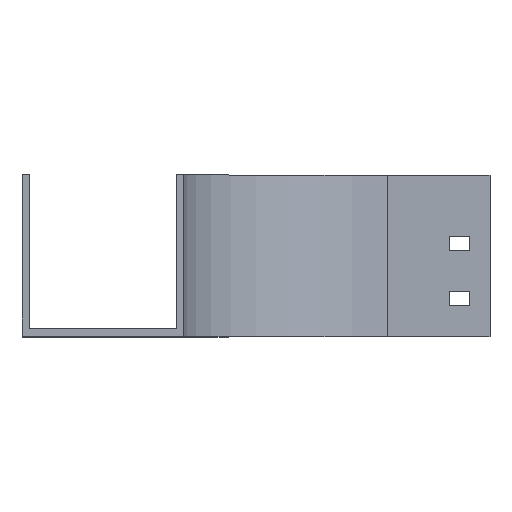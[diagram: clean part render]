
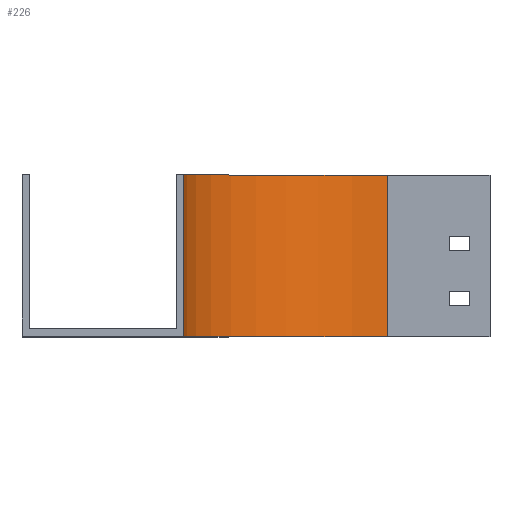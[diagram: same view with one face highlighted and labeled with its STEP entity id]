
A CAD part, top view. The second image highlights one B-rep face of the part: STEP entity #226.
In plain terms, the highlighted cylindrical face has radius 100 mm (diameter 200 mm), a partial arc.
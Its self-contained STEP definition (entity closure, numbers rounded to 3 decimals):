
#24 = DIRECTION ( 'NONE',  ( 0., 0., -1. ) ) ;
#42 = DIRECTION ( 'NONE',  ( 0., -1., 0. ) ) ;
#122 = CARTESIAN_POINT ( 'NONE',  ( 0., 79., 0. ) ) ;
#226 = ADVANCED_FACE ( 'NONE', ( #1204 ), #2039, .F. ) ;
#247 = LINE ( 'NONE', #924, #2719 ) ;
#282 = CIRCLE ( 'NONE', #1194, 100. ) ;
#303 = CARTESIAN_POINT ( 'NONE',  ( 0., 0., 0. ) ) ;
#327 = AXIS2_PLACEMENT_3D ( 'NONE', #122, #460, #2709 ) ;
#353 = EDGE_CURVE ( 'NONE', #1643, #882, #282, .T. ) ;
#460 = DIRECTION ( 'NONE',  ( 0., -1., 0. ) ) ;
#462 = CARTESIAN_POINT ( 'NONE',  ( 0., 0., -100. ) ) ;
#612 = VERTEX_POINT ( 'NONE', #1954 ) ;
#696 = DIRECTION ( 'NONE',  ( 0., -1., 0. ) ) ;
#743 = EDGE_LOOP ( 'NONE', ( #1516, #2556, #1513, #2367 ) ) ;
#766 = VECTOR ( 'NONE', #1818, 1000. ) ;
#783 = EDGE_CURVE ( 'NONE', #612, #2566, #973, .T. ) ;
#826 = EDGE_CURVE ( 'NONE', #612, #1643, #247, .T. ) ;
#882 = VERTEX_POINT ( 'NONE', #462 ) ;
#883 = AXIS2_PLACEMENT_3D ( 'NONE', #1727, #696, #24 ) ;
#907 = DIRECTION ( 'NONE',  ( 0., -1., 0. ) ) ;
#924 = CARTESIAN_POINT ( 'NONE',  ( -100., 79., 0. ) ) ;
#973 = CIRCLE ( 'NONE', #883, 100. ) ;
#1194 = AXIS2_PLACEMENT_3D ( 'NONE', #303, #907, #1738 ) ;
#1204 = FACE_OUTER_BOUND ( 'NONE', #743, .T. ) ;
#1513 = ORIENTED_EDGE ( 'NONE', *, *, #783, .F. ) ;
#1516 = ORIENTED_EDGE ( 'NONE', *, *, #353, .T. ) ;
#1643 = VERTEX_POINT ( 'NONE', #2462 ) ;
#1727 = CARTESIAN_POINT ( 'NONE',  ( 0., 79., 0. ) ) ;
#1738 = DIRECTION ( 'NONE',  ( 0., 0., -1. ) ) ;
#1778 = CARTESIAN_POINT ( 'NONE',  ( 0., 79., -100. ) ) ;
#1818 = DIRECTION ( 'NONE',  ( 0., -1., 0. ) ) ;
#1877 = CARTESIAN_POINT ( 'NONE',  ( 0., 79., -100. ) ) ;
#1888 = EDGE_CURVE ( 'NONE', #2566, #882, #1993, .T. ) ;
#1954 = CARTESIAN_POINT ( 'NONE',  ( -100., 79., 0. ) ) ;
#1993 = LINE ( 'NONE', #1778, #766 ) ;
#2039 = CYLINDRICAL_SURFACE ( 'NONE', #327, 100. ) ;
#2367 = ORIENTED_EDGE ( 'NONE', *, *, #826, .T. ) ;
#2462 = CARTESIAN_POINT ( 'NONE',  ( -100., 0., 0. ) ) ;
#2556 = ORIENTED_EDGE ( 'NONE', *, *, #1888, .F. ) ;
#2566 = VERTEX_POINT ( 'NONE', #1877 ) ;
#2709 = DIRECTION ( 'NONE',  ( 0., 0., -1. ) ) ;
#2719 = VECTOR ( 'NONE', #42, 1000. ) ;
